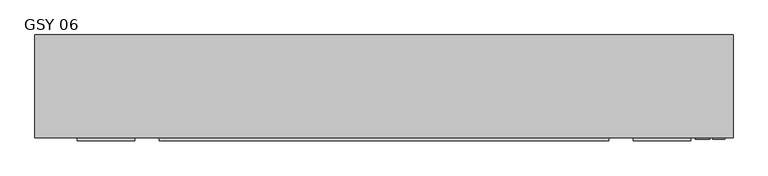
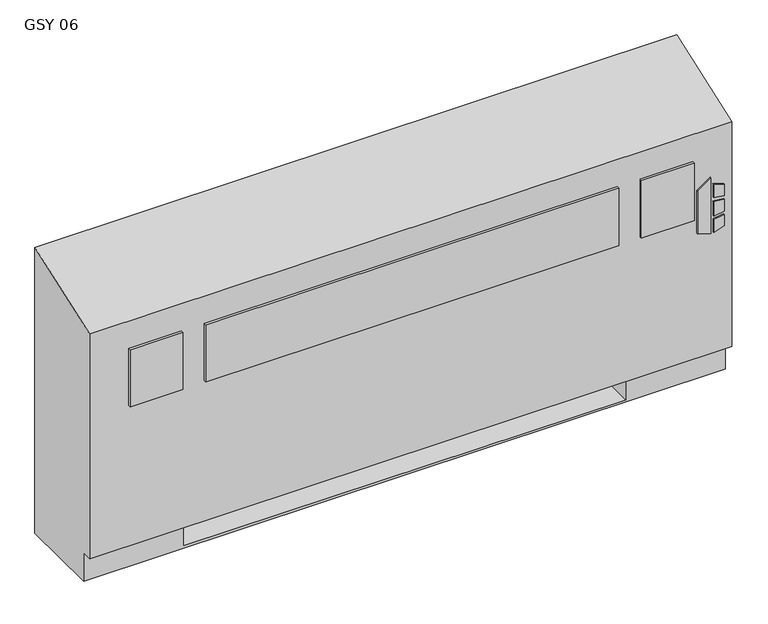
"""IFC4 building model written with IfcOpenShell, lengths in millimetres: proxy geometry, Vertical_Fan_Coil_Unit_-_GSY_-_IEC_-_2-Pipe_FS-FR_LH_2022 : GSY 06."""

from ifc_helpers import new_model, si_unit, point, frame, frame_2d, origin, place, context, project, spatial, polyline, circle_curve, trimmed, segment, composite_curve, outline, extrude, source, transform, mapped, element, save
from ifc_brep_helpers import plane_surface, revolved_surface, advanced_brep


def gsy_06_8a783c55(model_context):
    return source(origin(), model_context, "Body", "SolidModel", [
        extrude(outline(polyline([(391.6086829, 843.0368862), (381.6606126, 875.2102728), (523.831537, 875.2102728), (500.8095309, 843.0368862), (391.6086829, 843.0368862)])), frame((0.0, 12.7, 0.0), z_axis=(0.0, 1.0, 0.0), x_axis=(0.0, 0.0, 1.0)), (0.0, 0.0, 1.0), 3.175),
        extrude(outline(polyline([(470.6079683, 881.9686058), (467.4055757, 908.05), (496.6344168, 908.05), (504.6988318, 881.9686058), (470.6079683, 881.9686058)])), frame((0.0, 12.7, 0.0), z_axis=(0.0, 1.0, 0.0), x_axis=(0.0, 0.0, 1.0)), (0.0, 0.0, 1.0), 3.175),
        extrude(outline(polyline([(418.7444414, 908.05), (415.0789404, 881.9686058), (381.6606126, 881.9686058), (390.2948498, 908.05), (418.7444414, 908.05)])), frame((0.0, 12.7, 0.0), z_axis=(0.0, 1.0, 0.0), x_axis=(0.0, 0.0, 1.0)), (0.0, 0.0, 1.0), 3.175),
        extrude(outline(polyline([(458.0596028, 908.05), (460.3414292, 881.9686058), (424.4038806, 881.9686058), (427.1451456, 908.05), (458.0596028, 908.05)])), frame((0.0, 12.7, 0.0), z_axis=(0.0, 1.0, 0.0), x_axis=(0.0, 0.0, 1.0)), (0.0, 0.0, 1.0), 3.175),
        extrude(outline(polyline([(-401.193, 9.525), (-528.193, 9.525), (-528.193, 15.875), (-401.193, 15.875), (-401.193, 9.525)])), frame((0.0, 0.0, 431.8), z_axis=(0.0, 0.0, 1.0), x_axis=(1.0, 0.0, 0.0)), (0.0, 0.0, 1.0), 146.05),
        extrude(outline(polyline([(650.875, 9.525), (-346.075, 9.525), (-346.075, 15.875), (650.875, 15.875), (650.875, 9.525)])), frame((0.0, 0.0, 431.8), z_axis=(0.0, 0.0, 1.0), x_axis=(1.0, 0.0, 0.0)), (0.0, 0.0, 1.0), 146.05),
        extrude(outline(polyline([(832.993, 9.525), (705.993, 9.525), (705.993, 15.875), (832.993, 15.875), (832.993, 9.525)])), frame((0.0, 0.0, 431.8), z_axis=(0.0, 0.0, 1.0), x_axis=(1.0, 0.0, 0.0)), (0.0, 0.0, 1.0), 146.05),
        extrude(outline(polyline([(685.8, 81.534), (685.8, 223.266), (806.45, 223.266), (806.45, 81.534), (685.8, 81.534)])), frame((0.0, 0.0, 327.025), z_axis=(0.0, 0.0, 1.0), x_axis=(1.0, 0.0, 0.0)), (0.0, 0.0, 1.0), 260.35),
        extrude(outline(composite_curve([segment(trimmed(circle_curve(frame_2d((80.645, 397.002)), 7.9375), [point((80.645, 404.9395))], [point((80.645, 389.0645))], False, "CARTESIAN"), True, "CONTINUOUS"), segment(trimmed(circle_curve(frame_2d((80.645, 397.002)), 7.9375), [point((80.645, 389.0645))], [point((80.645, 404.9395))], False, "CARTESIAN"), True, "CONTINUOUS")], self_intersect=False)), frame((-431.8, 0.0, 0.0), z_axis=(1.0, 0.0, 0.0), x_axis=(0.0, 1.0, 0.0)), (0.0, 0.0, 1.0), 50.8),
        extrude(outline(composite_curve([segment(trimmed(circle_curve(frame_2d((156.8958, 535.8892)), 7.9375), [point((156.8958, 543.8267))], [point((156.8958, 527.9517))], False, "CARTESIAN"), True, "CONTINUOUS"), segment(trimmed(circle_curve(frame_2d((156.8958, 535.8892)), 7.9375), [point((156.8958, 527.9517))], [point((156.8958, 543.8267))], False, "CARTESIAN"), True, "CONTINUOUS")], self_intersect=False)), frame((-431.8, 0.0, 0.0), z_axis=(1.0, 0.0, 0.0), x_axis=(0.0, 1.0, 0.0)), (0.0, 0.0, 1.0), 50.8),
        advanced_brep(
        [(-622.3, 244.475, 0.0), (927.1, 244.475, 0.0), (927.1, 41.275, 0.0), (-622.3, 41.275, 0.0), (-622.3, 244.475, 730.25), (927.1, 244.475, 730.25), (685.8, 244.475, 73.025), (914.4, 244.475, 73.025), (914.4, 244.475, 654.05), (685.8, 244.475, 654.05), (685.8, 244.475, 414.8650565), (714.375, 244.475, 414.8650565), (714.375, 244.475, 385.2349435), (685.8, 244.475, 385.2349435), (685.8, 244.475, 287.3375), (714.375, 244.475, 287.3375), (714.375, 244.475, 258.7625), (685.8, 244.475, 258.7625), (685.8, 244.475, 141.2875), (714.375, 244.475, 141.2875), (714.375, 244.475, 112.7125), (685.8, 244.475, 112.7125), (-381.0, 244.475, 654.05), (-609.6, 244.475, 654.05), (-609.6, 244.475, 73.025), (-381.0, 244.475, 73.025), (-381.0, 244.475, 112.7125), (-409.575, 244.475, 112.7125), (-409.575, 244.475, 141.2875), (-381.0, 244.475, 141.2875), (-381.0, 244.475, 258.7625), (-409.575, 244.475, 258.7625), (-409.575, 244.475, 287.3375), (-381.0, 244.475, 287.3375), (-381.0, 244.475, 385.2349435), (-409.575, 244.475, 385.2349435), (-409.575, 244.475, 414.8650565), (-381.0, 244.475, 414.8650565), (704.0626, 244.475, 127.0), (692.9374, 244.475, 127.0), (704.0626, 244.475, 400.05), (692.9374, 244.475, 400.05), (704.0626, 244.475, 273.05), (692.9374, 244.475, 273.05), (-388.1374, 244.475, 127.0), (-399.2626, 244.475, 127.0), (-388.1374, 244.475, 273.05), (-399.2626, 244.475, 273.05), (-388.1374, 244.475, 400.05), (-399.2626, 244.475, 400.05), (-622.3, 41.275, 73.025), (-622.3, 15.875, 73.025), (-622.3, 15.875, 647.7), (927.1, 15.875, 73.025), (927.1, 15.875, 647.7), (927.1, 41.275, 73.025), (-381.0, 41.275, 73.025), (-381.0, 225.425, 73.025), (685.8, 225.425, 73.025), (685.8, 41.275, 73.025), (685.8, 41.275, 6.35), (-381.0, 41.275, 6.35), (685.8, 41.275, 654.05), (914.4, 41.275, 654.05), (914.4, 41.275, 73.025), (685.8, 41.275, 73.025), (-381.0, 41.275, 654.05), (-381.0, 41.275, 73.025), (-609.6, 41.275, 73.025), (-609.6, 41.275, 654.05), (685.8, 225.425, 73.025), (685.8, 238.125, 112.7125), (685.8, 238.125, 141.2875), (685.8, 238.125, 258.7625), (685.8, 238.125, 287.3375), (685.8, 238.125, 385.2349435), (685.8, 238.125, 414.8650565), (-381.0, 225.425, 73.025), (-381.0, 238.125, 414.8650565), (-381.0, 238.125, 385.2349435), (-381.0, 238.125, 287.3375), (-381.0, 238.125, 258.7625), (-381.0, 238.125, 141.2875), (-381.0, 238.125, 112.7125), (-381.0, 225.425, 6.35), (685.8, 225.425, 6.35), (714.375, 238.125, 112.7125), (714.375, 238.125, 141.2875), (692.9374, 238.125, 127.0), (704.0626, 238.125, 127.0), (714.375, 238.125, 258.7625), (714.375, 238.125, 287.3375), (692.9374, 238.125, 273.05), (704.0626, 238.125, 273.05), (714.375, 238.125, 385.2349435), (714.375, 238.125, 414.8650565), (692.9374, 238.125, 400.05), (704.0626, 238.125, 400.05), (-409.575, 238.125, 141.2875), (-409.575, 238.125, 112.7125), (-399.2626, 238.125, 127.0), (-388.1374, 238.125, 127.0), (-409.575, 238.125, 287.3375), (-409.575, 238.125, 258.7625), (-399.2626, 238.125, 273.05), (-388.1374, 238.125, 273.05), (-409.575, 238.125, 414.8650565), (-409.575, 238.125, 385.2349435), (-399.2626, 238.125, 400.05), (-388.1374, 238.125, 400.05)],
        [
            (0, 1),
            (1, 2),
            (2, 3),
            (3, 0),
            (0, 4),
            (4, 5),
            (5, 1),
            (6, 7),
            (7, 8),
            (8, 9),
            (9, 10),
            (10, 11),
            (11, 12),
            (12, 13),
            (13, 14),
            (14, 15),
            (15, 16),
            (16, 17),
            (17, 18),
            (18, 19),
            (19, 20),
            (20, 21),
            (21, 6),
            (22, 23),
            (23, 24),
            (24, 25),
            (25, 26),
            (26, 27),
            (27, 28),
            (28, 29),
            (29, 30),
            (30, 31),
            (31, 32),
            (32, 33),
            (33, 34),
            (34, 35),
            (35, 36),
            (36, 37),
            (37, 22),
            (38, 39, circle_curve(frame((698.5, 244.475, 127.0), z_axis=(0.0, -1.0, 0.0), x_axis=(-1.0, 0.0, 0.0)), 5.5626)),
            (39, 38, circle_curve(frame((698.5, 244.475, 127.0), z_axis=(0.0, -1.0, 0.0), x_axis=(-1.0, 0.0, 0.0)), 5.5626)),
            (40, 41, circle_curve(frame((698.5, 244.475, 400.05), z_axis=(0.0, -1.0, 0.0), x_axis=(-1.0, 0.0, 0.0)), 5.5626)),
            (41, 40, circle_curve(frame((698.5, 244.475, 400.05), z_axis=(0.0, -1.0, 0.0), x_axis=(-1.0, 0.0, 0.0)), 5.5626)),
            (42, 43, circle_curve(frame((698.5, 244.475, 273.05), z_axis=(0.0, -1.0, 0.0), x_axis=(-1.0, 0.0, 0.0)), 5.5626)),
            (43, 42, circle_curve(frame((698.5, 244.475, 273.05), z_axis=(0.0, -1.0, 0.0), x_axis=(-1.0, 0.0, 0.0)), 5.5626)),
            (44, 45, circle_curve(frame((-393.7, 244.475, 127.0), z_axis=(0.0, -1.0, 0.0), x_axis=(-1.0, 0.0, 0.0)), 5.5626)),
            (45, 44, circle_curve(frame((-393.7, 244.475, 127.0), z_axis=(0.0, -1.0, 0.0), x_axis=(-1.0, 0.0, 0.0)), 5.5626)),
            (46, 47, circle_curve(frame((-393.7, 244.475, 273.05), z_axis=(0.0, -1.0, 0.0), x_axis=(-1.0, 0.0, 0.0)), 5.5626)),
            (47, 46, circle_curve(frame((-393.7, 244.475, 273.05), z_axis=(0.0, -1.0, 0.0), x_axis=(-1.0, 0.0, 0.0)), 5.5626)),
            (48, 49, circle_curve(frame((-393.7, 244.475, 400.05), z_axis=(0.0, -1.0, 0.0), x_axis=(-1.0, 0.0, 0.0)), 5.5626)),
            (49, 48, circle_curve(frame((-393.7, 244.475, 400.05), z_axis=(0.0, -1.0, 0.0), x_axis=(-1.0, 0.0, 0.0)), 5.5626)),
            (3, 50),
            (50, 51),
            (51, 52),
            (52, 4),
            (51, 53),
            (53, 54),
            (54, 52),
            (5, 54),
            (53, 55),
            (55, 2),
            (50, 56),
            (56, 57),
            (57, 58),
            (58, 59),
            (59, 55),
            (59, 60),
            (60, 61),
            (61, 56),
            (62, 63),
            (63, 64),
            (64, 65),
            (65, 62),
            (66, 67),
            (67, 68),
            (68, 69),
            (69, 66),
            (65, 70),
            (70, 6),
            (21, 71),
            (71, 72),
            (72, 18),
            (17, 73),
            (73, 74),
            (74, 14),
            (13, 75),
            (75, 76),
            (76, 10),
            (9, 62),
            (64, 7),
            (63, 8),
            (69, 23),
            (22, 66),
            (68, 24),
            (67, 77),
            (77, 25),
            (37, 78),
            (78, 79),
            (79, 34),
            (33, 80),
            (80, 81),
            (81, 30),
            (29, 82),
            (82, 83),
            (83, 26),
            (57, 84),
            (84, 85),
            (85, 58),
            (85, 60),
            (84, 61),
            (71, 86),
            (86, 87),
            (87, 72),
            (88, 89, circle_curve(frame((698.5, 238.125, 127.0), z_axis=(0.0, 1.0, 0.0), x_axis=(-1.0, 0.0, 0.0)), 5.5626)),
            (89, 88, circle_curve(frame((698.5, 238.125, 127.0), z_axis=(0.0, 1.0, 0.0), x_axis=(-1.0, 0.0, 0.0)), 5.5626)),
            (73, 90),
            (90, 91),
            (91, 74),
            (92, 93, circle_curve(frame((698.5, 238.125, 273.05), z_axis=(0.0, 1.0, 0.0), x_axis=(-1.0, 0.0, 0.0)), 5.5626)),
            (93, 92, circle_curve(frame((698.5, 238.125, 273.05), z_axis=(0.0, 1.0, 0.0), x_axis=(-1.0, 0.0, 0.0)), 5.5626)),
            (75, 94),
            (94, 95),
            (95, 76),
            (96, 97, circle_curve(frame((698.5, 238.125, 400.05), z_axis=(0.0, 1.0, 0.0), x_axis=(-1.0, 0.0, 0.0)), 5.5626)),
            (97, 96, circle_curve(frame((698.5, 238.125, 400.05), z_axis=(0.0, 1.0, 0.0), x_axis=(-1.0, 0.0, 0.0)), 5.5626)),
            (98, 99),
            (99, 83),
            (82, 98),
            (100, 101, circle_curve(frame((-393.7, 238.125, 127.0), z_axis=(0.0, 1.0, 0.0), x_axis=(-1.0, 0.0, 0.0)), 5.5626)),
            (101, 100, circle_curve(frame((-393.7, 238.125, 127.0), z_axis=(0.0, 1.0, 0.0), x_axis=(-1.0, 0.0, 0.0)), 5.5626)),
            (102, 103),
            (103, 81),
            (80, 102),
            (104, 105, circle_curve(frame((-393.7, 238.125, 273.05), z_axis=(0.0, 1.0, 0.0), x_axis=(-1.0, 0.0, 0.0)), 5.5626)),
            (105, 104, circle_curve(frame((-393.7, 238.125, 273.05), z_axis=(0.0, 1.0, 0.0), x_axis=(-1.0, 0.0, 0.0)), 5.5626)),
            (106, 107),
            (107, 79),
            (78, 106),
            (108, 109, circle_curve(frame((-393.7, 238.125, 400.05), z_axis=(0.0, 1.0, 0.0), x_axis=(-1.0, 0.0, 0.0)), 5.5626)),
            (109, 108, circle_curve(frame((-393.7, 238.125, 400.05), z_axis=(0.0, 1.0, 0.0), x_axis=(-1.0, 0.0, 0.0)), 5.5626)),
            (87, 19),
            (86, 20),
            (91, 15),
            (90, 16),
            (95, 11),
            (94, 12),
            (28, 98),
            (99, 27),
            (32, 102),
            (103, 31),
            (36, 106),
            (107, 35),
            (88, 39),
            (38, 89),
            (96, 41),
            (40, 97),
            (92, 43),
            (42, 93),
            (100, 45),
            (44, 101),
            (104, 47),
            (46, 105),
            (108, 49),
            (48, 109),
        ],
        [
            plane_surface(frame((-622.3, 244.475, 0.0), z_axis=(0.0, 0.0, -1.0), x_axis=(1.0, 0.0, 0.0))),
            plane_surface(frame((927.1, 244.475, 730.25), z_axis=(0.0, 1.0, 0.0), x_axis=(0.0, 0.0, -1.0))),
            plane_surface(frame((-622.3, 244.475, 730.25), z_axis=(-1.0, 0.0, 0.0), x_axis=(0.0, 0.0, -1.0))),
            plane_surface(frame((-622.3, 15.875, 730.25), z_axis=(0.0, -1.0, 0.0), x_axis=(0.0, 0.0, -1.0))),
            plane_surface(frame((927.1, 15.875, 730.25), z_axis=(1.0, 0.0, 0.0), x_axis=(0.0, 0.0, -1.0))),
            plane_surface(frame((-622.3, 15.875, 73.025), z_axis=(0.0, 0.0, -1.0), x_axis=(1.0, 0.0, 0.0))),
            plane_surface(frame((-622.3, 41.275, 73.025), z_axis=(0.0, -1.0, 0.0), x_axis=(1.0, 0.0, 0.0))),
            plane_surface(frame((685.8, 41.275, 654.05), z_axis=(0.0, 1.0, 0.0), x_axis=(0.0, 0.0, -1.0))),
            plane_surface(frame((685.8, 41.275, 654.05), z_axis=(1.0, 0.0, 0.0), x_axis=(0.0, 1.0, 0.0))),
            plane_surface(frame((685.8, 41.275, 73.025), z_axis=(0.0, 0.0, 1.0), x_axis=(0.0, 1.0, 0.0))),
            plane_surface(frame((914.4, 41.275, 73.025), z_axis=(-1.0, 0.0, 0.0), x_axis=(0.0, 1.0, 0.0))),
            plane_surface(frame((914.4, 41.275, 654.05), z_axis=(0.0, 0.0, -1.0), x_axis=(0.0, 1.0, 0.0))),
            plane_surface(frame((-381.0, 41.275, 654.05), z_axis=(0.0, 0.0, -1.0), x_axis=(0.0, 1.0, 0.0))),
            plane_surface(frame((-609.6, 41.275, 654.05), z_axis=(1.0, 0.0, 0.0), x_axis=(0.0, 1.0, 0.0))),
            plane_surface(frame((-609.6, 41.275, 73.025), z_axis=(0.0, 0.0, 1.0), x_axis=(0.0, 1.0, 0.0))),
            plane_surface(frame((-381.0, 41.275, 73.025), z_axis=(-1.0, 0.0, 0.0), x_axis=(0.0, 1.0, 0.0))),
            plane_surface(frame((685.8, 225.425, 73.025), z_axis=(0.0, -1.0, 0.0), x_axis=(0.0, 0.0, -1.0))),
            plane_surface(frame((685.8, 225.425, 73.025), z_axis=(-1.0, 0.0, 0.0), x_axis=(0.0, -1.0, 0.0))),
            plane_surface(frame((685.8, 225.425, 6.35), z_axis=(0.0, 0.0, 1.0), x_axis=(0.0, -1.0, 0.0))),
            plane_surface(frame((-381.0, 225.425, 6.35), z_axis=(1.0, 0.0, 0.0), x_axis=(0.0, -1.0, 0.0))),
            plane_surface(frame((714.375, 238.125, 141.2875), z_axis=(0.0, -1.0, 0.0), x_axis=(-1.0, 0.0, 0.0))),
            plane_surface(frame((685.8, 244.475, 141.2875), z_axis=(0.0, 0.0, 1.0), x_axis=(0.0, -1.0, 0.0))),
            plane_surface(frame((714.375, 244.475, 141.2875), z_axis=(1.0, 0.0, 0.0), x_axis=(0.0, -1.0, 0.0))),
            plane_surface(frame((714.375, 244.475, 112.7125), z_axis=(0.0, 0.0, -1.0), x_axis=(0.0, -1.0, 0.0))),
            plane_surface(frame((685.8, 244.475, 287.3375), z_axis=(0.0, 0.0, 1.0), x_axis=(0.0, -1.0, 0.0))),
            plane_surface(frame((714.375, 244.475, 287.3375), z_axis=(1.0, 0.0, 0.0), x_axis=(0.0, -1.0, 0.0))),
            plane_surface(frame((714.375, 244.475, 258.7625), z_axis=(0.0, 0.0, -1.0), x_axis=(0.0, -1.0, 0.0))),
            plane_surface(frame((685.8, 244.475, 414.8650565), z_axis=(0.0, 0.0, 1.0), x_axis=(0.0, -1.0, 0.0))),
            plane_surface(frame((714.375, 244.475, 414.8650565), z_axis=(1.0, 0.0, 0.0), x_axis=(0.0, -1.0, 0.0))),
            plane_surface(frame((714.375, 244.475, 385.2349435), z_axis=(0.0, 0.0, -1.0), x_axis=(0.0, -1.0, 0.0))),
            plane_surface(frame((-409.575, 244.475, 141.2875), z_axis=(0.0, 0.0, 1.0), x_axis=(0.0, -1.0, 0.0))),
            plane_surface(frame((-381.0, 244.475, 112.7125), z_axis=(0.0, 0.0, -1.0), x_axis=(0.0, -1.0, 0.0))),
            plane_surface(frame((-409.575, 244.475, 112.7125), z_axis=(-1.0, 0.0, 0.0), x_axis=(0.0, -1.0, 0.0))),
            plane_surface(frame((-409.575, 244.475, 287.3375), z_axis=(0.0, 0.0, 1.0), x_axis=(0.0, -1.0, 0.0))),
            plane_surface(frame((-381.0, 244.475, 258.7625), z_axis=(0.0, 0.0, -1.0), x_axis=(0.0, -1.0, 0.0))),
            plane_surface(frame((-409.575, 244.475, 258.7625), z_axis=(-1.0, 0.0, 0.0), x_axis=(0.0, -1.0, 0.0))),
            plane_surface(frame((-409.575, 244.475, 414.8650565), z_axis=(0.0, 0.0, 1.0), x_axis=(0.0, -1.0, 0.0))),
            plane_surface(frame((-381.0, 244.475, 385.2349435), z_axis=(0.0, 0.0, -1.0), x_axis=(0.0, -1.0, 0.0))),
            plane_surface(frame((-409.575, 244.475, 385.2349435), z_axis=(-1.0, 0.0, 0.0), x_axis=(0.0, -1.0, 0.0))),
            revolved_surface(polyline([(692.9374, 238.125, 127.0), (692.9374, 244.475, 127.0)]), (698.5, 244.475, 127.0), (0.0, -1.0, 0.0)),
            revolved_surface(polyline([(692.9374, 238.125, 400.05), (692.9374, 244.475, 400.05)]), (698.5, 244.475, 400.05), (0.0, -1.0, 0.0)),
            revolved_surface(polyline([(692.9374, 238.125, 273.05), (692.9374, 244.475, 273.05)]), (698.5, 244.475, 273.05), (0.0, -1.0, 0.0)),
            revolved_surface(polyline([(-399.26259999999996, 238.125, 127.0), (-399.26259999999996, 244.475, 127.0)]), (-393.7, 244.475, 127.0), (0.0, -1.0, 0.0)),
            revolved_surface(polyline([(-399.26259999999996, 238.125, 273.05), (-399.26259999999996, 244.475, 273.05)]), (-393.7, 244.475, 273.05), (0.0, -1.0, 0.0)),
            revolved_surface(polyline([(-399.26259999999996, 238.125, 400.05), (-399.26259999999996, 244.475, 400.05)]), (-393.7, 244.475, 400.05), (0.0, -1.0, 0.0)),
            plane_surface(frame((-622.3, 244.475, 730.25), z_axis=(0.0, -0.33964446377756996, 0.9405538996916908), x_axis=(1.0, 0.0, 0.0))),
        ],
        [
            (0, [[1, 2, 3, 4]]),
            (1, [[-1, 5, 6, 7], [8, 9, 10, 11, 12, 13, 14, 15, 16, 17, 18, 19, 20, 21, 22, 23], [24, 25, 26, 27, 28, 29, 30, 31, 32, 33, 34, 35, 36, 37, 38, 39], [40, 41], [42, 43], [44, 45], [46, 47], [48, 49], [50, 51]]),
            (2, [[-5, -4, 52, 53, 54, 55]]),
            (3, [[56, 57, 58, -54]]),
            (4, [[-7, 59, -57, 60, 61, -2]]),
            (5, [[-53, 62, 63, 64, 65, 66, -60, -56]]),
            (6, [[-3, -61, -66, 67, 68, 69, -62, -52]]),
            (7, [[70, 71, 72, 73]]),
            (7, [[74, 75, 76, 77]]),
            (8, [[-73, 78, 79, -23, 80, 81, 82, -19, 83, 84, 85, -15, 86, 87, 88, -11, 89]]),
            (9, [[-72, 90, -8, -79, -78]]),
            (10, [[-71, 91, -9, -90]]),
            (11, [[-70, -89, -10, -91]]),
            (12, [[-77, 92, -24, 93]]),
            (13, [[-76, 94, -25, -92]]),
            (14, [[-75, 95, 96, -26, -94]]),
            (15, [[-74, -93, -39, 97, 98, 99, -35, 100, 101, 102, -31, 103, 104, 105, -27, -96, -95]]),
            (16, [[-64, 106, 107, 108]]),
            (17, [[-108, 109, -67, -65]]),
            (18, [[-107, 110, -68, -109]]),
            (19, [[-106, -63, -69, -110]]),
            (20, [[111, 112, 113, -81], [114, 115]]),
            (20, [[116, 117, 118, -84], [119, 120]]),
            (20, [[121, 122, 123, -87], [124, 125]]),
            (20, [[126, 127, -104, 128], [129, 130]]),
            (20, [[131, 132, -101, 133], [134, 135]]),
            (20, [[136, 137, -98, 138], [139, 140]]),
            (21, [[-113, 141, -20, -82]]),
            (22, [[-112, 142, -21, -141]]),
            (23, [[-111, -80, -22, -142]]),
            (24, [[-118, 143, -16, -85]]),
            (25, [[-117, 144, -17, -143]]),
            (26, [[-116, -83, -18, -144]]),
            (27, [[-123, 145, -12, -88]]),
            (28, [[-122, 146, -13, -145]]),
            (29, [[-121, -86, -14, -146]]),
            (30, [[-128, -103, -30, 147]]),
            (31, [[-127, 148, -28, -105]]),
            (32, [[-126, -147, -29, -148]]),
            (33, [[-133, -100, -34, 149]]),
            (34, [[-132, 150, -32, -102]]),
            (35, [[-131, -149, -33, -150]]),
            (36, [[-138, -97, -38, 151]]),
            (37, [[-137, 152, -36, -99]]),
            (38, [[-136, -151, -37, -152]]),
            (39, [[153, -40, 154, -114]]),
            (39, [[-153, -115, -154, -41]]),
            (40, [[155, -42, 156, -124]]),
            (40, [[-155, -125, -156, -43]]),
            (41, [[157, -44, 158, -119]]),
            (41, [[-157, -120, -158, -45]]),
            (42, [[159, -46, 160, -129]]),
            (42, [[-159, -130, -160, -47]]),
            (43, [[161, -48, 162, -134]]),
            (43, [[-161, -135, -162, -49]]),
            (44, [[163, -50, 164, -139]]),
            (44, [[-163, -140, -164, -51]]),
            (45, [[-6, -55, -58, -59]]),
        ],
    ),
    ])


if __name__ == "__main__":
    model = new_model("IFC4")
    model_context = context("Model", 3, world=origin())
    ifc_project = project(units=[si_unit("LENGTHUNIT", "METRE", prefix="MILLI")], contexts=[model_context])
    site = spatial("IfcSite", under=ifc_project)
    building = spatial("IfcBuilding", under=site)
    placement = place(None, origin())
    gsy_06_shape = gsy_06_8a783c55(model_context)
    element("IfcBuildingElementProxy", 1, Name="Vertical_Fan_Coil_Unit_-_GSY_-_IEC_-_2-Pipe_FS-FR_LH_2022 : GSY 06", ObjectType="Vertical_Fan_Coil_Unit_-_GSY_-_IEC_-_2-Pipe_FS-FR_LH_2022 : GSY 06", at=placement, inside=building, context=model_context, shape_type="MappedRepresentation", body=[
        mapped(gsy_06_shape, transform((0.0, 0.0, 0.0), x_axis=(1.0, 0.0, 0.0), y_axis=(0.0, 1.0, 0.0), z_axis=(0.0, 0.0, 1.0))),
    ])
    save(model, "model.ifc")
